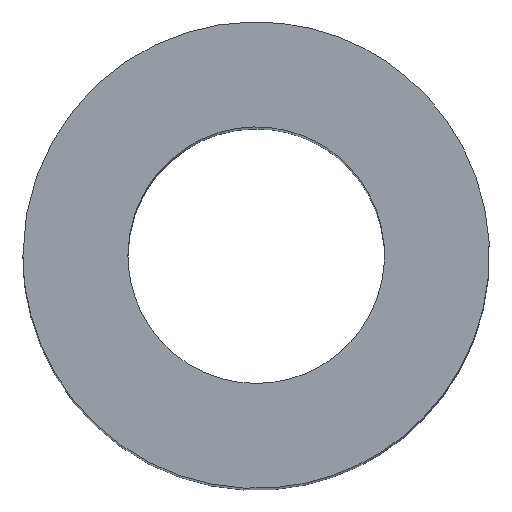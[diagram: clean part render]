
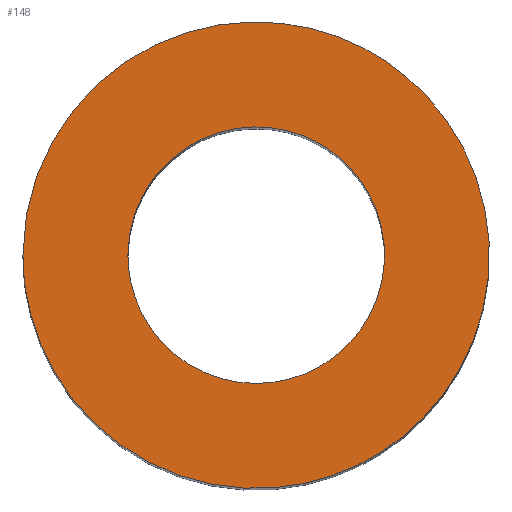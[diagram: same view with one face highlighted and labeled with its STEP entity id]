
A CAD part, top view. The second image highlights one B-rep face of the part: STEP entity #148.
In plain terms, the highlighted free-form (B-spline) face has degree [1, 1] with [2, 2] control points.
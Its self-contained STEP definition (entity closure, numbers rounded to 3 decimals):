
#115 = EDGE_CURVE('',#116,#116,#118,.T.);
#116 = VERTEX_POINT('',#117);
#117 = CARTESIAN_POINT('',(-3.,0.,14.));
#118 = ( BOUNDED_CURVE() B_SPLINE_CURVE(2,(#119,#120,#121,#122,#123,#124
,#125),.UNSPECIFIED.,.T.,.F.) B_SPLINE_CURVE_WITH_KNOTS((1,2,2,2,2,1),(
    -2.094,0.,2.094,4.189,6.283,
8.378),.UNSPECIFIED.) CURVE() GEOMETRIC_REPRESENTATION_ITEM() 
RATIONAL_B_SPLINE_CURVE((1.,0.5,1.,0.5,1.,0.5,1.)) REPRESENTATION_ITEM(
  '') );
#119 = CARTESIAN_POINT('',(-3.,0.,14.));
#120 = CARTESIAN_POINT('',(-3.,5.196,14.));
#121 = CARTESIAN_POINT('',(1.5,2.598,14.));
#122 = CARTESIAN_POINT('',(6.,0.,14.));
#123 = CARTESIAN_POINT('',(1.5,-2.598,14.));
#124 = CARTESIAN_POINT('',(-3.,-5.196,14.));
#125 = CARTESIAN_POINT('',(-3.,0.,14.));
#148 = ADVANCED_FACE('',(#149,#163),#166,.T.);
#149 = FACE_BOUND('',#150,.T.);
#150 = EDGE_LOOP('',(#151));
#151 = ORIENTED_EDGE('',*,*,#152,.T.);
#152 = EDGE_CURVE('',#153,#153,#155,.T.);
#153 = VERTEX_POINT('',#154);
#154 = CARTESIAN_POINT('',(-1.65,0.,14.));
#155 = ( BOUNDED_CURVE() B_SPLINE_CURVE(2,(#156,#157,#158,#159,#160,#161
,#162),.UNSPECIFIED.,.T.,.F.) B_SPLINE_CURVE_WITH_KNOTS((1,2,2,2,2,1),(
    -2.094,0.,2.094,4.189,6.283,
8.378),.UNSPECIFIED.) CURVE() GEOMETRIC_REPRESENTATION_ITEM() 
RATIONAL_B_SPLINE_CURVE((1.,0.5,1.,0.5,1.,0.5,1.)) REPRESENTATION_ITEM(
  '') );
#156 = CARTESIAN_POINT('',(-1.65,0.,14.));
#157 = CARTESIAN_POINT('',(-1.65,2.858,14.));
#158 = CARTESIAN_POINT('',(0.825,1.429,14.));
#159 = CARTESIAN_POINT('',(3.3,0.,14.));
#160 = CARTESIAN_POINT('',(0.825,-1.429,14.));
#161 = CARTESIAN_POINT('',(-1.65,-2.858,14.));
#162 = CARTESIAN_POINT('',(-1.65,0.,14.));
#163 = FACE_BOUND('',#164,.T.);
#164 = EDGE_LOOP('',(#165));
#165 = ORIENTED_EDGE('',*,*,#115,.F.);
#166 = B_SPLINE_SURFACE_WITH_KNOTS('',1,1,(
    (#167,#168)
    ,(#169,#170
  )),.UNSPECIFIED.,.F.,.F.,.F.,(2,2),(2,2),(0.,6.),(-3.,3.),
  .PIECEWISE_BEZIER_KNOTS.);
#167 = CARTESIAN_POINT('',(-3.,-3.,14.));
#168 = CARTESIAN_POINT('',(-3.,3.,14.));
#169 = CARTESIAN_POINT('',(3.,-3.,14.));
#170 = CARTESIAN_POINT('',(3.,3.,14.));
